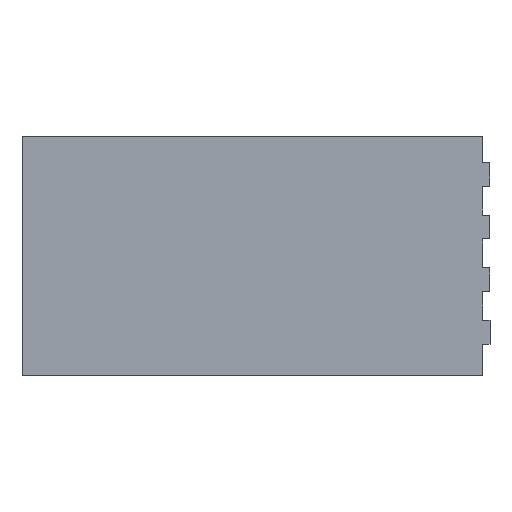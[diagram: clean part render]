
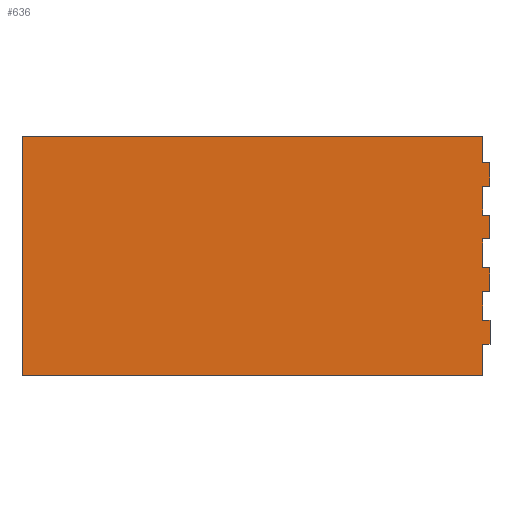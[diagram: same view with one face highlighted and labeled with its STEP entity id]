
A CAD part, top view. The second image highlights one B-rep face of the part: STEP entity #636.
In plain terms, the highlighted planar face has unit normal (0, 0, 1).
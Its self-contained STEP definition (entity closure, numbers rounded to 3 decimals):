
#2 = DIRECTION ( 'NONE',  ( 0., -1., 0. ) ) ;
#5 = DIRECTION ( 'NONE',  ( 1., 0., 0. ) ) ;
#6 = ORIENTED_EDGE ( 'NONE', *, *, #29, .T. ) ;
#7 = EDGE_CURVE ( 'NONE', #24, #380, #161, .T. ) ;
#13 = DIRECTION ( 'NONE',  ( 1., 0., 0. ) ) ;
#15 = CARTESIAN_POINT ( 'NONE',  ( 87.5, -33.5, 2.5 ) ) ;
#24 = VERTEX_POINT ( 'NONE', #266 ) ;
#25 = CARTESIAN_POINT ( 'NONE',  ( 0., -24.5, 2.5 ) ) ;
#26 = CARTESIAN_POINT ( 'NONE',  ( 87.5, 6.5, 2.5 ) ) ;
#29 = EDGE_CURVE ( 'NONE', #436, #632, #443, .T. ) ;
#30 = DIRECTION ( 'NONE',  ( 1., 0., 0. ) ) ;
#31 = ORIENTED_EDGE ( 'NONE', *, *, #629, .T. ) ;
#33 = VECTOR ( 'NONE', #106, 1000. ) ;
#35 = ORIENTED_EDGE ( 'NONE', *, *, #476, .F. ) ;
#56 = CARTESIAN_POINT ( 'NONE',  ( 0., 15.5, 2.5 ) ) ;
#59 = EDGE_CURVE ( 'NONE', #549, #241, #501, .T. ) ;
#60 = DIRECTION ( 'NONE',  ( 1., 0., 0. ) ) ;
#63 = EDGE_CURVE ( 'NONE', #575, #216, #330, .T. ) ;
#65 = CARTESIAN_POINT ( 'NONE',  ( 87.5, 15.5, 2.5 ) ) ;
#67 = LINE ( 'NONE', #56, #156 ) ;
#75 = CARTESIAN_POINT ( 'NONE',  ( 90.3, -33.5, 2.5 ) ) ;
#77 = LINE ( 'NONE', #291, #433 ) ;
#80 = CARTESIAN_POINT ( 'NONE',  ( 0., 6.5, 2.5 ) ) ;
#83 = CARTESIAN_POINT ( 'NONE',  ( 90.3, -4.5, 2.5 ) ) ;
#84 = CARTESIAN_POINT ( 'NONE',  ( 0., -4.5, 2.5 ) ) ;
#91 = VECTOR ( 'NONE', #30, 1000. ) ;
#93 = ORIENTED_EDGE ( 'NONE', *, *, #214, .F. ) ;
#102 = AXIS2_PLACEMENT_3D ( 'NONE', #618, #561, #60 ) ;
#104 = EDGE_CURVE ( 'NONE', #105, #436, #526, .T. ) ;
#105 = VERTEX_POINT ( 'NONE', #26 ) ;
#106 = DIRECTION ( 'NONE',  ( 0., -1., 0. ) ) ;
#107 = CARTESIAN_POINT ( 'NONE',  ( 90.3, 15.5, 2.5 ) ) ;
#118 = CARTESIAN_POINT ( 'NONE',  ( 0., 26.5, 2.5 ) ) ;
#120 = EDGE_CURVE ( 'NONE', #380, #298, #135, .T. ) ;
#125 = LINE ( 'NONE', #477, #233 ) ;
#130 = DIRECTION ( 'NONE',  ( 0., 1., 0. ) ) ;
#135 = LINE ( 'NONE', #297, #494 ) ;
#148 = ORIENTED_EDGE ( 'NONE', *, *, #558, .F. ) ;
#152 = CARTESIAN_POINT ( 'NONE',  ( 87.5, 0., 2.5 ) ) ;
#153 = VERTEX_POINT ( 'NONE', #179 ) ;
#154 = VERTEX_POINT ( 'NONE', #573 ) ;
#156 = VECTOR ( 'NONE', #13, 1000. ) ;
#157 = LINE ( 'NONE', #713, #610 ) ;
#161 = LINE ( 'NONE', #118, #377 ) ;
#166 = DIRECTION ( 'NONE',  ( 0., 1., 0. ) ) ;
#170 = CARTESIAN_POINT ( 'NONE',  ( 90.3, 0., 2.5 ) ) ;
#173 = CARTESIAN_POINT ( 'NONE',  ( 90.3, 0., 2.5 ) ) ;
#174 = CARTESIAN_POINT ( 'NONE',  ( 90.3, 6.5, 2.5 ) ) ;
#179 = CARTESIAN_POINT ( 'NONE',  ( 87.5, -4.5, 2.5 ) ) ;
#186 = EDGE_CURVE ( 'NONE', #241, #486, #414, .T. ) ;
#192 = CARTESIAN_POINT ( 'NONE',  ( 87.5, 35.5, 2.5 ) ) ;
#197 = DIRECTION ( 'NONE',  ( 0., -1., 0. ) ) ;
#200 = CARTESIAN_POINT ( 'NONE',  ( 90.3, -13.5, 2.5 ) ) ;
#207 = VERTEX_POINT ( 'NONE', #15 ) ;
#210 = VECTOR ( 'NONE', #2, 1000. ) ;
#214 = EDGE_CURVE ( 'NONE', #153, #338, #583, .T. ) ;
#216 = VERTEX_POINT ( 'NONE', #347 ) ;
#219 = EDGE_CURVE ( 'NONE', #207, #424, #77, .T. ) ;
#233 = VECTOR ( 'NONE', #335, 1000. ) ;
#241 = VERTEX_POINT ( 'NONE', #360 ) ;
#248 = CARTESIAN_POINT ( 'NONE',  ( 90.3, 35.5, 2.5 ) ) ;
#252 = CARTESIAN_POINT ( 'NONE',  ( 87.5, 0., 2.5 ) ) ;
#256 = ORIENTED_EDGE ( 'NONE', *, *, #346, .F. ) ;
#260 = ORIENTED_EDGE ( 'NONE', *, *, #120, .T. ) ;
#265 = VECTOR ( 'NONE', #673, 1000. ) ;
#266 = CARTESIAN_POINT ( 'NONE',  ( 87.5, 26.5, 2.5 ) ) ;
#268 = EDGE_CURVE ( 'NONE', #154, #322, #423, .T. ) ;
#271 = LINE ( 'NONE', #173, #461 ) ;
#272 = LINE ( 'NONE', #279, #413 ) ;
#274 = LINE ( 'NONE', #334, #427 ) ;
#279 = CARTESIAN_POINT ( 'NONE',  ( 0., -13.5, 2.5 ) ) ;
#291 = CARTESIAN_POINT ( 'NONE',  ( 0., -33.5, 2.5 ) ) ;
#297 = CARTESIAN_POINT ( 'NONE',  ( 90.3, 0., 2.5 ) ) ;
#298 = VERTEX_POINT ( 'NONE', #248 ) ;
#322 = VERTEX_POINT ( 'NONE', #192 ) ;
#330 = LINE ( 'NONE', #560, #33 ) ;
#332 = LINE ( 'NONE', #498, #621 ) ;
#333 = DIRECTION ( 'NONE',  ( 1., 0., 0. ) ) ;
#334 = CARTESIAN_POINT ( 'NONE',  ( 87.5, 0., 2.5 ) ) ;
#335 = DIRECTION ( 'NONE',  ( 1., 0., 0. ) ) ;
#338 = VERTEX_POINT ( 'NONE', #83 ) ;
#346 = EDGE_CURVE ( 'NONE', #216, #374, #521, .T. ) ;
#347 = CARTESIAN_POINT ( 'NONE',  ( 87.5, -24.5, 2.5 ) ) ;
#352 = ORIENTED_EDGE ( 'NONE', *, *, #104, .T. ) ;
#360 = CARTESIAN_POINT ( 'NONE',  ( -87.5, -45.5, 2.5 ) ) ;
#364 = DIRECTION ( 'NONE',  ( 0., -1., 0. ) ) ;
#372 = LINE ( 'NONE', #152, #662 ) ;
#374 = VERTEX_POINT ( 'NONE', #548 ) ;
#375 = CARTESIAN_POINT ( 'NONE',  ( 87.5, -13.5, 2.5 ) ) ;
#377 = VECTOR ( 'NONE', #333, 1000. ) ;
#380 = VERTEX_POINT ( 'NONE', #669 ) ;
#387 = DIRECTION ( 'NONE',  ( 0., -1., 0. ) ) ;
#389 = EDGE_CURVE ( 'NONE', #549, #154, #332, .T. ) ;
#390 = CARTESIAN_POINT ( 'NONE',  ( -87.5, 0., 2.5 ) ) ;
#395 = ORIENTED_EDGE ( 'NONE', *, *, #703, .F. ) ;
#397 = VECTOR ( 'NONE', #625, 1000. ) ;
#401 = EDGE_LOOP ( 'NONE', ( #420, #568, #584, #598, #656, #470, #712, #256, #602, #696, #31, #93, #620, #352, #6, #395, #148, #684, #260, #35 ) ) ;
#403 = EDGE_CURVE ( 'NONE', #575, #600, #272, .T. ) ;
#404 = DIRECTION ( 'NONE',  ( 1., 0., 0. ) ) ;
#410 = CARTESIAN_POINT ( 'NONE',  ( 0., -45.5, 2.5 ) ) ;
#413 = VECTOR ( 'NONE', #404, 1000. ) ;
#414 = LINE ( 'NONE', #410, #649 ) ;
#420 = ORIENTED_EDGE ( 'NONE', *, *, #268, .F. ) ;
#423 = LINE ( 'NONE', #252, #481 ) ;
#424 = VERTEX_POINT ( 'NONE', #75 ) ;
#427 = VECTOR ( 'NONE', #387, 1000. ) ;
#433 = VECTOR ( 'NONE', #516, 1000. ) ;
#436 = VERTEX_POINT ( 'NONE', #174 ) ;
#443 = LINE ( 'NONE', #170, #265 ) ;
#444 = VECTOR ( 'NONE', #465, 1000. ) ;
#456 = PLANE ( 'NONE',  #102 ) ;
#461 = VECTOR ( 'NONE', #166, 1000. ) ;
#465 = DIRECTION ( 'NONE',  ( 1., 0., 0. ) ) ;
#470 = ORIENTED_EDGE ( 'NONE', *, *, #219, .T. ) ;
#476 = EDGE_CURVE ( 'NONE', #322, #298, #125, .T. ) ;
#477 = CARTESIAN_POINT ( 'NONE',  ( 0., 35.5, 2.5 ) ) ;
#481 = VECTOR ( 'NONE', #197, 1000. ) ;
#486 = VERTEX_POINT ( 'NONE', #566 ) ;
#494 = VECTOR ( 'NONE', #130, 1000. ) ;
#498 = CARTESIAN_POINT ( 'NONE',  ( 0., 45.5, 2.5 ) ) ;
#501 = LINE ( 'NONE', #390, #591 ) ;
#502 = LINE ( 'NONE', #675, #210 ) ;
#510 = DIRECTION ( 'NONE',  ( 1., 0., 0. ) ) ;
#516 = DIRECTION ( 'NONE',  ( 1., 0., 0. ) ) ;
#521 = LINE ( 'NONE', #25, #444 ) ;
#526 = LINE ( 'NONE', #80, #91 ) ;
#543 = VERTEX_POINT ( 'NONE', #65 ) ;
#545 = EDGE_CURVE ( 'NONE', #207, #486, #502, .T. ) ;
#548 = CARTESIAN_POINT ( 'NONE',  ( 90.3, -24.5, 2.5 ) ) ;
#549 = VERTEX_POINT ( 'NONE', #707 ) ;
#558 = EDGE_CURVE ( 'NONE', #24, #543, #372, .T. ) ;
#559 = DIRECTION ( 'NONE',  ( 0., 1., 0. ) ) ;
#560 = CARTESIAN_POINT ( 'NONE',  ( 87.5, 0., 2.5 ) ) ;
#561 = DIRECTION ( 'NONE',  ( 0., 0., 1. ) ) ;
#566 = CARTESIAN_POINT ( 'NONE',  ( 87.5, -45.5, 2.5 ) ) ;
#568 = ORIENTED_EDGE ( 'NONE', *, *, #389, .F. ) ;
#573 = CARTESIAN_POINT ( 'NONE',  ( 87.5, 45.5, 2.5 ) ) ;
#575 = VERTEX_POINT ( 'NONE', #375 ) ;
#583 = LINE ( 'NONE', #84, #397 ) ;
#584 = ORIENTED_EDGE ( 'NONE', *, *, #59, .T. ) ;
#591 = VECTOR ( 'NONE', #612, 1000. ) ;
#598 = ORIENTED_EDGE ( 'NONE', *, *, #186, .T. ) ;
#600 = VERTEX_POINT ( 'NONE', #200 ) ;
#602 = ORIENTED_EDGE ( 'NONE', *, *, #63, .F. ) ;
#609 = FACE_OUTER_BOUND ( 'NONE', #401, .T. ) ;
#610 = VECTOR ( 'NONE', #559, 1000. ) ;
#612 = DIRECTION ( 'NONE',  ( 0., -1., 0. ) ) ;
#618 = CARTESIAN_POINT ( 'NONE',  ( 0., 0., 2.5 ) ) ;
#620 = ORIENTED_EDGE ( 'NONE', *, *, #695, .F. ) ;
#621 = VECTOR ( 'NONE', #5, 1000. ) ;
#625 = DIRECTION ( 'NONE',  ( 1., 0., 0. ) ) ;
#629 = EDGE_CURVE ( 'NONE', #600, #338, #157, .T. ) ;
#632 = VERTEX_POINT ( 'NONE', #107 ) ;
#636 = ADVANCED_FACE ( 'NONE', ( #609 ), #456, .T. ) ;
#649 = VECTOR ( 'NONE', #510, 1000. ) ;
#656 = ORIENTED_EDGE ( 'NONE', *, *, #545, .F. ) ;
#662 = VECTOR ( 'NONE', #364, 1000. ) ;
#669 = CARTESIAN_POINT ( 'NONE',  ( 90.3, 26.5, 2.5 ) ) ;
#672 = EDGE_CURVE ( 'NONE', #424, #374, #271, .T. ) ;
#673 = DIRECTION ( 'NONE',  ( 0., 1., 0. ) ) ;
#675 = CARTESIAN_POINT ( 'NONE',  ( 87.5, 0., 2.5 ) ) ;
#684 = ORIENTED_EDGE ( 'NONE', *, *, #7, .T. ) ;
#695 = EDGE_CURVE ( 'NONE', #105, #153, #274, .T. ) ;
#696 = ORIENTED_EDGE ( 'NONE', *, *, #403, .T. ) ;
#703 = EDGE_CURVE ( 'NONE', #543, #632, #67, .T. ) ;
#707 = CARTESIAN_POINT ( 'NONE',  ( -87.5, 45.5, 2.5 ) ) ;
#712 = ORIENTED_EDGE ( 'NONE', *, *, #672, .T. ) ;
#713 = CARTESIAN_POINT ( 'NONE',  ( 90.3, 0., 2.5 ) ) ;
